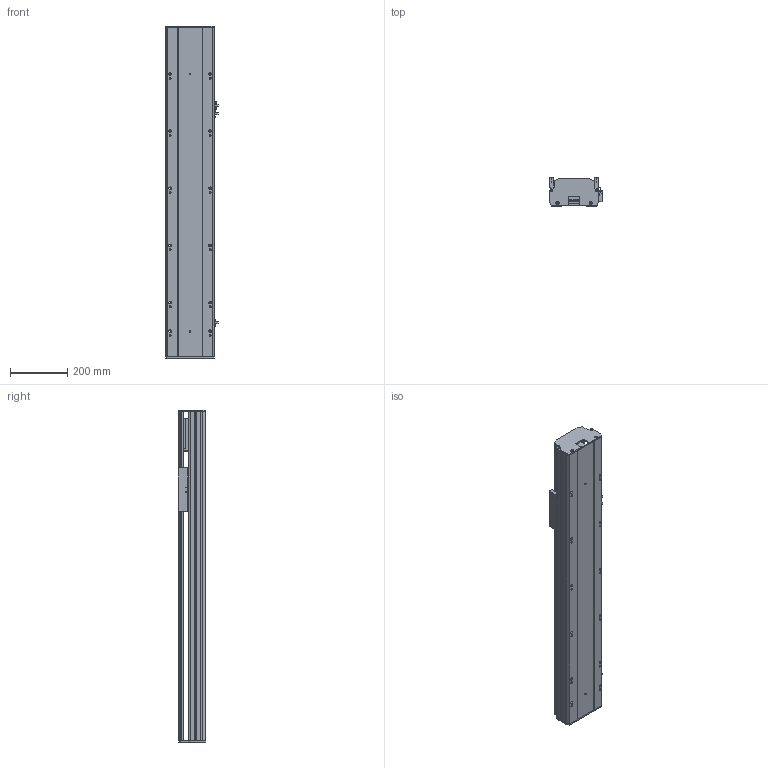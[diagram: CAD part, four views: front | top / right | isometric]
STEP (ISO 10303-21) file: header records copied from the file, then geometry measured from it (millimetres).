
FILE_DESCRIPTION (( 'STEP AP203' ), '1' );
FILE_NAME ('Y170-D10-S750-M-P400W.STEP', '2020-01-22T12:48:19', ( '微软用户' ), ( '微软中国' ), 'SwSTEP 2.0', 'SolidWorks 2017', '' );
FILE_SCHEMA (( 'CONFIG_CONTROL_DESIGN' ));
Length unit declared in the file: millimetre
Products named in the file (10): Y170耜裔--準---; Y170--雄赽釱-梓--; 170--掛极-M; Y170耜裔--準---M; san松下电机400不带刹车----; Y170-陔遴奻裔-M; YD-Y100-135-新外置传感挡片(通用）; Y170-D10-S750-M-P400W; Y100-135俋离換覜ん; 135-盓傅釱-FK15
Assembly tree (11 placements, depth 2):
  Y170-D10-S750-M-P400W
    YD-Y100-135-新外置传感挡片(通用）
    Y100-135俋离換覜ん  x3
    135-盓傅釱-FK15
    Y170耜裔--準---
    Y170--雄赽釱-梓--
    170--掛极-M
    Y170耜裔--準---M
    san松下电机400不带刹车----
    Y170-陔遴奻裔-M
Bounding box: 183.5 x 97 x 1161 mm (x, y, z)
Volume: 5110311.8 mm3; surface area: 1795825.1 mm2
Topology: 11 solids, 11 shells, 785 faces, 2228 edges, 1476 vertices
Faces by surface type: cylinder 399, plane 384, torus 2
Entity records: 25420 total; most frequent: CARTESIAN_POINT 4529, DIRECTION 4222, ORIENTED_EDGE 4120, EDGE_CURVE 2060, AXIS2_PLACEMENT_3D 1497, VERTEX_POINT 1364, LINE 1228, VECTOR 1228
